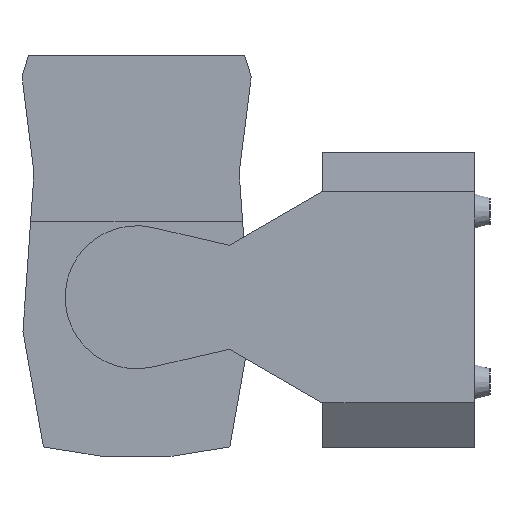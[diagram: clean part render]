
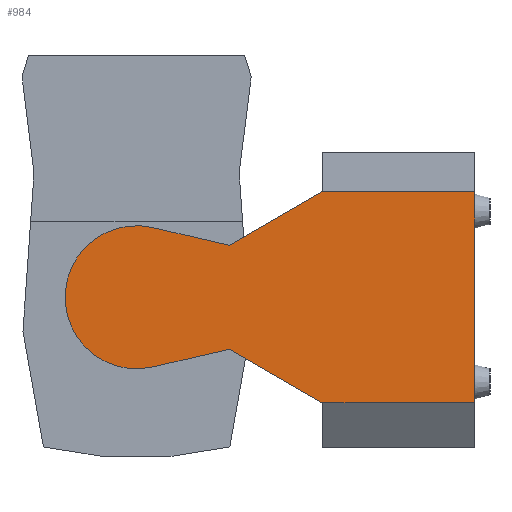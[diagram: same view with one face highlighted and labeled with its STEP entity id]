
A CAD part, left-side view. The second image highlights one B-rep face of the part: STEP entity #984.
In plain terms, the highlighted planar face has unit normal (-1, 0, 0).
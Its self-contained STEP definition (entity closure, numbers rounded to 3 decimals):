
#47=PLANE('',#1122);
#100=FACE_OUTER_BOUND('',#154,.T.);
#154=EDGE_LOOP('',(#761,#762,#763,#764,#765,#766,#767,#768));
#219=LINE('',#1514,#343);
#222=LINE('',#1520,#346);
#230=LINE('',#1541,#354);
#231=LINE('',#1543,#355);
#232=LINE('',#1544,#356);
#233=LINE('',#1546,#357);
#234=LINE('',#1547,#358);
#343=VECTOR('',#1244,10.);
#346=VECTOR('',#1249,10.);
#354=VECTOR('',#1267,10.);
#355=VECTOR('',#1268,10.);
#356=VECTOR('',#1269,10.);
#357=VECTOR('',#1270,10.);
#358=VECTOR('',#1271,10.);
#452=CIRCLE('',#1121,32.8);
#481=VERTEX_POINT('',#1511);
#482=VERTEX_POINT('',#1513);
#484=VERTEX_POINT('',#1519);
#490=VERTEX_POINT('',#1535);
#491=VERTEX_POINT('',#1539);
#492=VERTEX_POINT('',#1540);
#493=VERTEX_POINT('',#1542);
#494=VERTEX_POINT('',#1545);
#583=EDGE_CURVE('',#482,#481,#219,.T.);
#586=EDGE_CURVE('',#484,#482,#222,.T.);
#595=EDGE_CURVE('',#481,#490,#452,.T.);
#596=EDGE_CURVE('',#491,#492,#230,.T.);
#597=EDGE_CURVE('',#491,#493,#231,.T.);
#598=EDGE_CURVE('',#493,#484,#232,.T.);
#599=EDGE_CURVE('',#490,#494,#233,.T.);
#600=EDGE_CURVE('',#494,#492,#234,.T.);
#761=ORIENTED_EDGE('',*,*,#596,.F.);
#762=ORIENTED_EDGE('',*,*,#597,.T.);
#763=ORIENTED_EDGE('',*,*,#598,.T.);
#764=ORIENTED_EDGE('',*,*,#586,.T.);
#765=ORIENTED_EDGE('',*,*,#583,.T.);
#766=ORIENTED_EDGE('',*,*,#595,.T.);
#767=ORIENTED_EDGE('',*,*,#599,.T.);
#768=ORIENTED_EDGE('',*,*,#600,.T.);
#984=ADVANCED_FACE('',(#100),#47,.T.);
#1121=AXIS2_PLACEMENT_3D('',#1537,#1263,#1264);
#1122=AXIS2_PLACEMENT_3D('',#1538,#1265,#1266);
#1244=DIRECTION('',(0.,0.974,0.226));
#1249=DIRECTION('',(0.,0.866,-0.501));
#1263=DIRECTION('center_axis',(-1.,0.,0.));
#1264=DIRECTION('ref_axis',(0.,-0.226,-0.974));
#1265=DIRECTION('center_axis',(-1.,0.,0.));
#1266=DIRECTION('ref_axis',(0.,0.,1.));
#1267=DIRECTION('',(0.,1.,0.));
#1268=DIRECTION('',(0.,0.,1.));
#1269=DIRECTION('',(0.,1.,0.));
#1270=DIRECTION('',(0.,-0.974,0.226));
#1271=DIRECTION('',(0.,-0.866,-0.501));
#1511=CARTESIAN_POINT('',(-249.915,147.593,31.953));
#1513=CARTESIAN_POINT('',(-249.915,112.432,23.802));
#1514=CARTESIAN_POINT('',(-249.915,51.096,9.585));
#1519=CARTESIAN_POINT('',(-249.915,70.07,48.3));
#1520=CARTESIAN_POINT('',(-249.915,64.766,51.367));
#1535=CARTESIAN_POINT('',(-249.915,147.593,-31.953));
#1537=CARTESIAN_POINT('Origin',(-249.915,155.,0.));
#1538=CARTESIAN_POINT('Origin',(-249.915,0.,-48.3));
#1539=CARTESIAN_POINT('',(-249.915,0.,-48.3));
#1540=CARTESIAN_POINT('',(-249.915,70.07,-48.3));
#1541=CARTESIAN_POINT('',(-249.915,0.,-48.3));
#1542=CARTESIAN_POINT('',(-249.915,0.,48.3));
#1543=CARTESIAN_POINT('',(-249.915,0.,-48.3));
#1544=CARTESIAN_POINT('',(-249.915,0.,48.3));
#1545=CARTESIAN_POINT('',(-249.915,112.432,-23.802));
#1546=CARTESIAN_POINT('',(-249.915,79.358,-16.136));
#1547=CARTESIAN_POINT('',(-249.915,64.96,-51.255));
